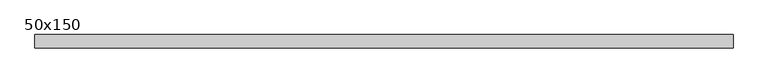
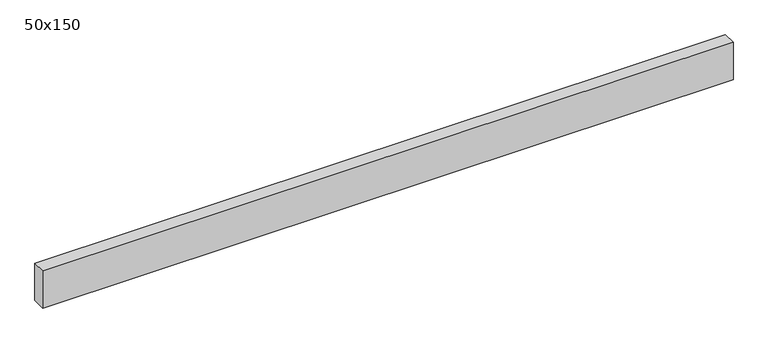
"""IFC4 building model written with IfcOpenShell, lengths in millimetres: beam geometry, Graded Timber : 50x150."""

import ifcopenshell
import ifcopenshell.guid

model = None  # the IFC model being written
_history = None  # IfcOwnerHistory: only IFC2X3 demands one
_inside = {}  # id of a spatial element -> (the spatial element, [elements in it])
_under = {}  # id of a project, library or spatial element -> (it, [spatial elements below it])
_declared = {}  # id of a project -> (the project, [libraries it declares])
_typed = {}  # id of a type object -> (the type object, [elements of that type])
_made_of = {}  # id of a material, layer set ... -> (it, [elements and type objects made of it])


def new_model(schema):
    """Start an empty IFC model of exactly this schema.

    Asked for "IFC4X3", IfcOpenShell would pick the latest addendum, in which some entities
    have other attributes; the version numbers below select the first issue.
    IFC2X3 requires an IfcOwnerHistory on every rooted entity: one is made here for all.
    """
    global model, _history
    if schema == "IFC4X3":
        model = ifcopenshell.file(schema_version=(4, 3, 0, 0))
    else:
        model = ifcopenshell.file(schema=schema)
    _inside.clear()
    _under.clear()
    _declared.clear()
    _typed.clear()
    _made_of.clear()
    _history = None
    if model.schema == "IFC2X3":
        org = make("IfcOrganization", Name="unknown")
        user = make(
            "IfcPersonAndOrganization",
            ThePerson=make("IfcPerson", FamilyName="unknown"),
            TheOrganization=org,
        )
        app = make(
            "IfcApplication",
            ApplicationDeveloper=org,
            Version="unknown",
            ApplicationFullName="unknown",
            ApplicationIdentifier="unknown",
        )
        _history = make(
            "IfcOwnerHistory",
            OwningUser=user,
            OwningApplication=app,
            ChangeAction="ADDED",
            CreationDate=0,
        )
    return model


def make(cls, **values):
    """One entity of the class cls with the attributes given. An attribute that is None is left unset."""
    return model.create_entity(
        cls, **{name: value for name, value in values.items() if value is not None}
    )


def rooted(cls, **values):
    """An entity with a GlobalId (a new one), such as an element, a storey or a relation."""
    return make(cls, GlobalId=ifcopenshell.guid.new(), OwnerHistory=_history, **values)


def si_unit(unit_type, name, prefix=None):
    """IfcSIUnit, for example si_unit("LENGTHUNIT", "METRE", prefix="MILLI")."""
    return make("IfcSIUnit", UnitType=unit_type, Prefix=prefix, Name=name)


def assignment(units):
    """IfcUnitAssignment: the units of a project."""
    return None if units is None else make("IfcUnitAssignment", Units=units)


def point(xyz):
    """IfcCartesianPoint."""
    return None if xyz is None else make("IfcCartesianPoint", Coordinates=xyz)


def direction(xyz):
    """IfcDirection."""
    return None if xyz is None else make("IfcDirection", DirectionRatios=xyz)


def frame(location, z_axis=None, x_axis=None):
    """IfcAxis2Placement3D, a coordinate frame: its origin and axes. An axis left out is left unset."""
    return make(
        "IfcAxis2Placement3D",
        Location=point(location),
        Axis=direction(z_axis),
        RefDirection=direction(x_axis),
    )


def origin():
    """The frame at (0, 0, 0) with its axes left unset."""
    return frame((0.0, 0.0, 0.0))


def place(relative_to, where):
    """IfcLocalPlacement: puts the frame where relative to a parent placement (None: the world)."""
    return make(
        "IfcLocalPlacement", PlacementRelTo=relative_to, RelativePlacement=where
    )


def context(
    kind, dimensions, precision=None, world=None, true_north=None, identifier=None
):
    """IfcGeometricRepresentationContext, for example the 3D "Model" context."""
    return make(
        "IfcGeometricRepresentationContext",
        ContextIdentifier=identifier,
        ContextType=kind,
        CoordinateSpaceDimension=dimensions,
        Precision=precision,
        WorldCoordinateSystem=world,
        TrueNorth=true_north,
    )


def project(units=None, contexts=None):
    """IfcProject with its units and contexts."""
    return rooted(
        "IfcProject",
        Name="project",
        RepresentationContexts=contexts,
        UnitsInContext=assignment(units),
    )


def spatial(cls, under=None, at=None, **own):
    """A site, building, storey or space (cls), placed at a placement, below another one or the project."""
    s = rooted(cls, ObjectPlacement=at, **own)
    if under is not None:
        _under.setdefault(under.id(), (under, []))[1].append(s)
    return s


def polyline(points):
    """IfcPolyline through the points."""
    return make("IfcPolyline", Points=[point(p) for p in points])


def outline(outer, holes=None, kind="AREA"):
    """IfcArbitraryClosedProfileDef: a profile drawn as a closed curve; with holes, ...WithVoids."""
    if holes is None:
        return make("IfcArbitraryClosedProfileDef", ProfileType=kind, OuterCurve=outer)
    return make(
        "IfcArbitraryProfileDefWithVoids",
        ProfileType=kind,
        OuterCurve=outer,
        InnerCurves=holes,
    )


def extrude(swept, where, along, depth):
    """IfcExtrudedAreaSolid: the profile swept, set in the frame where, extruded along a direction by depth."""
    return make(
        "IfcExtrudedAreaSolid",
        SweptArea=swept,
        Position=where,
        ExtrudedDirection=direction(along),
        Depth=depth,
    )


def shape(context_of_items, identifier, shape_type, items):
    """IfcShapeRepresentation: the items that make up one representation, for example the "Body"."""
    return make(
        "IfcShapeRepresentation",
        ContextOfItems=context_of_items,
        RepresentationIdentifier=identifier,
        RepresentationType=shape_type,
        Items=items,
    )


def source(mapping_origin, context_of_items, identifier, shape_type, items):
    """IfcRepresentationMap: a shape defined once, which mapped items show again and again."""
    return make(
        "IfcRepresentationMap",
        MappingOrigin=mapping_origin,
        MappedRepresentation=shape(context_of_items, identifier, shape_type, items),
    )


def transform(
    local_origin,
    x_axis=None,
    y_axis=None,
    z_axis=None,
    scale=None,
    scale2=None,
    scale3=None,
    uniform=True,
):
    """IfcCartesianTransformationOperator3D, or its non-uniform kind. x_axis, y_axis, z_axis: its Axis1, 2, 3."""
    if uniform:
        return make(
            "IfcCartesianTransformationOperator3D",
            Axis1=direction(x_axis),
            Axis2=direction(y_axis),
            LocalOrigin=point(local_origin),
            Scale=scale,
            Axis3=direction(z_axis),
        )
    return make(
        "IfcCartesianTransformationOperator3DnonUniform",
        Axis1=direction(x_axis),
        Axis2=direction(y_axis),
        LocalOrigin=point(local_origin),
        Scale=scale,
        Axis3=direction(z_axis),
        Scale2=scale2,
        Scale3=scale3,
    )


def mapped(mapping_source, mapping_target):
    """IfcMappedItem: shows the shape of a source again, moved by a transform."""
    return make(
        "IfcMappedItem", MappingSource=mapping_source, MappingTarget=mapping_target
    )


def made_of(thing, what):
    """Note that an element or type object is made of a material, layer set ...; save() writes the relation."""
    if what is not None:
        _made_of.setdefault(what.id(), (what, []))[1].append(thing)
    return thing


def element(
    cls,
    number,
    at=None,
    inside=None,
    cuts=None,
    type_object=None,
    material=None,
    context=None,
    identifier="Body",
    shape_type=None,
    held_by="IfcProductDefinitionShape",
    body=None,
    shapes=None,
    **own,
):
    """One element of the class cls, such as IfcWall. Its Tag is "e" and its number.

    at: its placement. inside: the storey or other place that contains it. cuts: it is an
    opening in that element (IfcRelVoidsElement). A single representation is given by context,
    identifier, shape_type and body (its items); several are given by shapes. held_by: the class
    of the entity that holds the representations. save() writes the other relations.
    """
    e = rooted(cls, Tag="e%d" % number, ObjectPlacement=at, **own)
    if body is not None:
        shapes = [shape(context, identifier, shape_type, body)]
    if shapes is not None:
        e.Representation = make(held_by, Representations=shapes)
    if inside is not None:
        _inside.setdefault(inside.id(), (inside, []))[1].append(e)
    if cuts is not None:
        rooted(
            "IfcRelVoidsElement", RelatingBuildingElement=cuts, RelatedOpeningElement=e
        )
    if type_object is not None:
        _typed.setdefault(type_object.id(), (type_object, []))[1].append(e)
    return made_of(e, material)


def aggregate(whole, parts):
    """IfcRelAggregates: a whole, such as a stair, and the parts it consists of."""
    return rooted("IfcRelAggregates", RelatingObject=whole, RelatedObjects=parts)


def save(model, path):
    """Write the relations noted so far, then the file.

    IfcRelAggregates (storeys below a building ...), IfcRelContainedInSpatialStructure (elements
    in a storey), IfcRelDefinesByType, IfcRelAssociatesMaterial and IfcRelDeclares: one each for
    every whole, place, type object, material and project.
    """
    for whole, parts in _under.values():
        aggregate(whole, parts)
    for where, things in _inside.values():
        rooted(
            "IfcRelContainedInSpatialStructure",
            RelatedElements=things,
            RelatingStructure=where,
        )
    for kind, things in _typed.values():
        rooted("IfcRelDefinesByType", RelatedObjects=things, RelatingType=kind)
    for what, things in _made_of.values():
        rooted("IfcRelAssociatesMaterial", RelatedObjects=things, RelatingMaterial=what)
    for by, libraries in _declared.values():
        rooted("IfcRelDeclares", RelatingContext=by, RelatedDefinitions=libraries)
    model.write(path)


def beam_50x150_5c7ec585(model_context):
    return source(origin(), model_context, "Body", "SweptSolid", [
        extrude(outline(polyline([(1310.0, 25.0), (1310.0, -25.0), (-1310.0, -25.0), (-1310.0, 25.0), (1310.0, 25.0)])), frame((0.0, 0.0, -75.0), z_axis=(0.0, 0.0, 1.0), x_axis=(1.0, 0.0, 0.0)), (0.0, 0.0, 1.0), 150.0),
    ])


if __name__ == "__main__":
    model = new_model("IFC4")
    model_context = context("Model", 3, world=origin())
    ifc_project = project(units=[si_unit("LENGTHUNIT", "METRE", prefix="MILLI")], contexts=[model_context])
    site = spatial("IfcSite", under=ifc_project)
    building = spatial("IfcBuilding", under=site)
    placement = place(None, origin())
    beam_50x150_shape = beam_50x150_5c7ec585(model_context)
    element("IfcBeam", 1, ObjectType="Graded Timber : 50x150", at=placement, inside=building, context=model_context, shape_type="MappedRepresentation", body=[
        mapped(beam_50x150_shape, transform((0.0, 0.0, 0.0), x_axis=(1.0, 0.0, 0.0), y_axis=(0.0, 1.0, 0.0), z_axis=(0.0, 0.0, 1.0))),
    ])
    save(model, "model.ifc")
